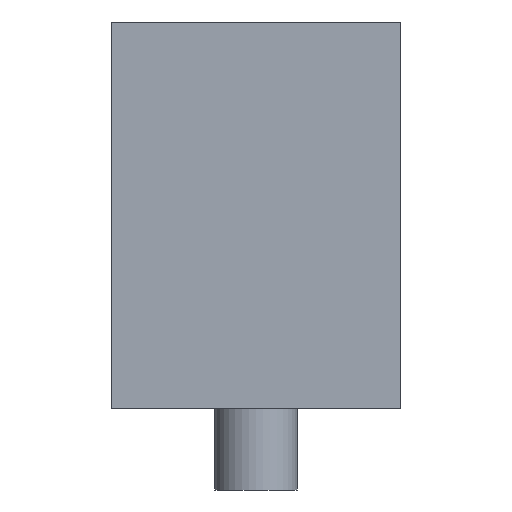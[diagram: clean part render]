
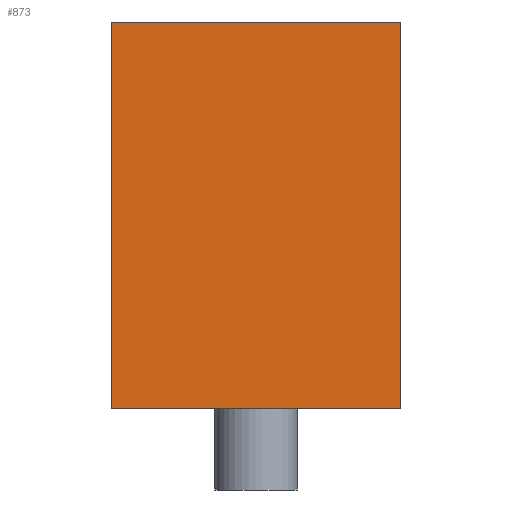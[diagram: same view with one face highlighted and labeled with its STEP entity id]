
A CAD part, front view. The second image highlights one B-rep face of the part: STEP entity #873.
In plain terms, the highlighted planar face has unit normal (0, -1, 0).
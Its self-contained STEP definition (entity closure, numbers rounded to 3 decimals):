
#79=PLANE('',#939);
#112=FACE_OUTER_BOUND('',#165,.T.);
#165=EDGE_LOOP('',(#676,#677,#678,#679));
#221=LINE('',#1553,#296);
#237=LINE('',#1828,#312);
#238=LINE('',#1830,#313);
#239=LINE('',#1831,#314);
#296=VECTOR('',#989,10.);
#312=VECTOR('',#1017,5.);
#313=VECTOR('',#1018,10.);
#314=VECTOR('',#1019,5.);
#391=VERTEX_POINT('',#1550);
#392=VERTEX_POINT('',#1552);
#425=VERTEX_POINT('',#1827);
#426=VERTEX_POINT('',#1829);
#485=EDGE_CURVE('',#391,#392,#221,.T.);
#521=EDGE_CURVE('',#425,#392,#237,.T.);
#522=EDGE_CURVE('',#426,#391,#238,.T.);
#523=EDGE_CURVE('',#426,#425,#239,.T.);
#676=ORIENTED_EDGE('',*,*,#521,.T.);
#677=ORIENTED_EDGE('',*,*,#485,.F.);
#678=ORIENTED_EDGE('',*,*,#522,.F.);
#679=ORIENTED_EDGE('',*,*,#523,.T.);
#873=ADVANCED_FACE('',(#112),#79,.T.);
#939=AXIS2_PLACEMENT_3D('',#1826,#1015,#1016);
#989=DIRECTION('',(-1.,0.,0.));
#1015=DIRECTION('center_axis',(0.,-1.,0.));
#1016=DIRECTION('ref_axis',(0.,0.,-1.));
#1017=DIRECTION('',(0.,0.,-1.));
#1018=DIRECTION('',(0.,0.,-1.));
#1019=DIRECTION('',(-1.,0.,0.));
#1550=CARTESIAN_POINT('',(30.954,10.,-35.281));
#1552=CARTESIAN_POINT('',(-13.371,10.,-35.281));
#1553=CARTESIAN_POINT('',(30.954,10.,-35.281));
#1826=CARTESIAN_POINT('Origin',(8.792,10.,-4.447));
#1827=CARTESIAN_POINT('',(-13.371,10.,23.888));
#1828=CARTESIAN_POINT('',(-13.371,10.,23.888));
#1829=CARTESIAN_POINT('',(30.954,10.,23.888));
#1830=CARTESIAN_POINT('',(30.954,10.,-32.781));
#1831=CARTESIAN_POINT('',(30.954,10.,23.888));
